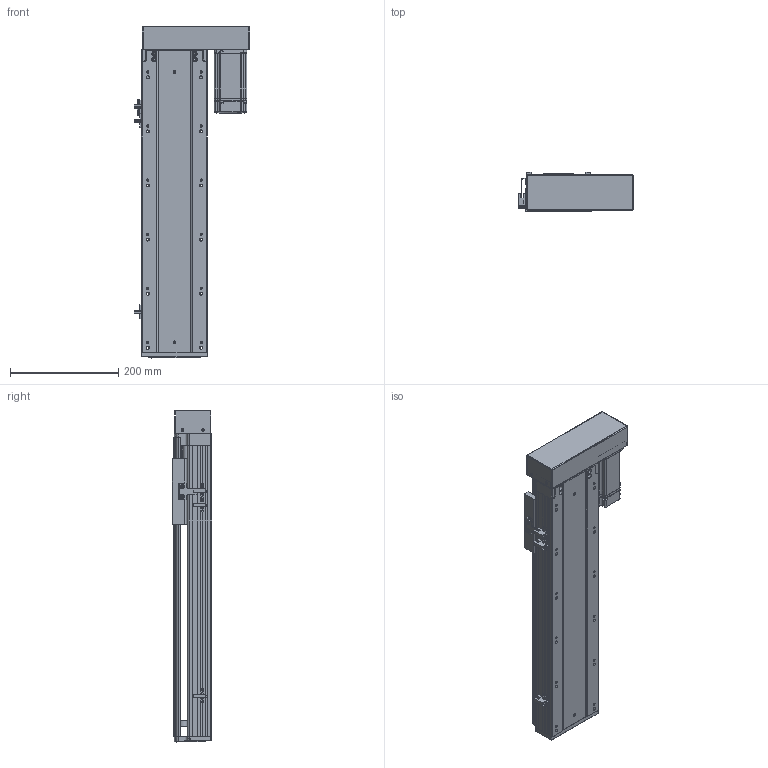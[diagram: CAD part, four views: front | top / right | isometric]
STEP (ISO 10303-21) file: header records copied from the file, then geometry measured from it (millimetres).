
FILE_DESCRIPTION (( 'STEP AP203' ), '1' );
FILE_NAME ('RY120-L2020-300-RK.SLDASM_350.step', '2021-03-12T07:14:01', ( '盈信电脑' ), ( '东莞市道滘镇水果街19号' ), 'SwSTEP 2.0', 'SolidWorks 2012', '' );
FILE_SCHEMA (( 'CONFIG_CONTROL_DESIGN' ));
Length unit declared in the file: millimetre
Products named in the file (15): RY120-L2020-300-RK.SLDASM_350; RY120蛌殏萇儂欶; RY120-400W萇儂傷-酘衵殏_450; 侂狟400W侜督萇儂; RY120酘殏萇儂假蚾啣; RY120转拆电端丝杆支撑座(20丝杆，7002轴承); 15; RY120外置感应片(140共用）; 滅袉蝶18-10; 滅袉蝶18-24; 覜茼ん672; RY120綴裔啣; RY120-300-RK蛌殏倰第菁釱_350; RY120臏賑輸(20蹟譫); RY120-300-RK蛌殏倰第奻裔啣_350
Assembly tree (17 placements, depth 4):
  RY120-L2020-300-RK.SLDASM_350
    RY120-300-RK蛌殏倰第菁釱_350
    RY120-300-RK蛌殏倰第奻裔啣_350
    RY120臏賑輸(20蹟譫)
    RY120綴裔啣
    覜茼ん672  x3
    滅袉蝶18-10
    滅袉蝶18-24  x2
    RY120外置感应片(140共用）
    RY120转拆电端丝杆支撑座(20丝杆，7002轴承)
    RY120-400W萇儂傷-酘衵殏_450
      RY120酘殏萇儂假蚾啣
      侂狟400W侜督萇儂
        15
      RY120蛌殏萇儂欶
Bounding box: 214.2 x 73 x 614 mm (x, y, z)
Volume: 2122339.4 mm3; surface area: 753162.8 mm2
Topology: 16 solids, 16 shells, 2346 faces, 6431 edges, 4124 vertices
Faces by surface type: plane 1206, cylinder 842, cone 193, bspline 105
Entity records: 77205 total; most frequent: CARTESIAN_POINT 21435, ORIENTED_EDGE 11598, DIRECTION 10739, EDGE_CURVE 5799, VERTEX_POINT 3792, LINE 3657, VECTOR 3657, AXIS2_PLACEMENT_3D 3541
